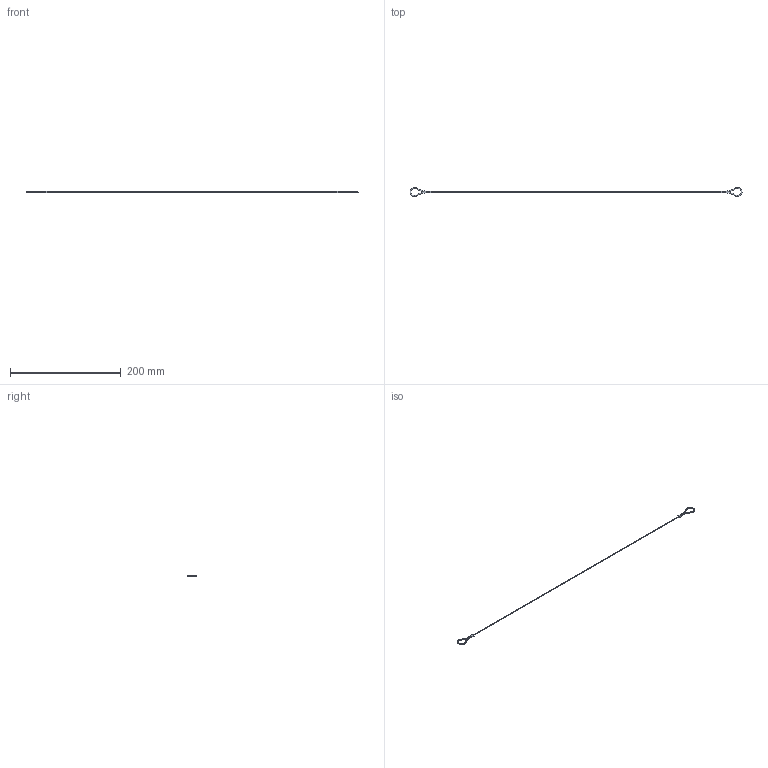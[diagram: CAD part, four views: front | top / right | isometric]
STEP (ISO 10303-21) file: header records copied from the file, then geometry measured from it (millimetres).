
FILE_DESCRIPTION (( 'STEP AP203' ), '1' );
FILE_NAME ('EB-935-18.STEP', '2013-08-12T06:38:02', ( 'SDS' ), ( 'SDS' ), 'SwSTEP 2.0', 'SolidWorks 2002296', '' );
FILE_SCHEMA (( 'CONFIG_CONTROL_DESIGN' ));
Length unit declared in the file: millimetre
Products named in the file (1): EB-935-18
Bounding box: 599.98 x 15.98 x 2.5 mm (x, y, z)
Volume: 1291.2 mm3; surface area: 3318.3 mm2
Topology: 1 solids, 1 shells, 32 faces, 70 edges, 38 vertices
Faces by surface type: bspline 16, plane 14, cylinder 2
Entity records: 1407 total; most frequent: CARTESIAN_POINT 701, ORIENTED_EDGE 140, DIRECTION 120, EDGE_CURVE 70, AXIS2_PLACEMENT_3D 45, VERTEX_POINT 38, EDGE_LOOP 34, FACE_OUTER_BOUND 32
